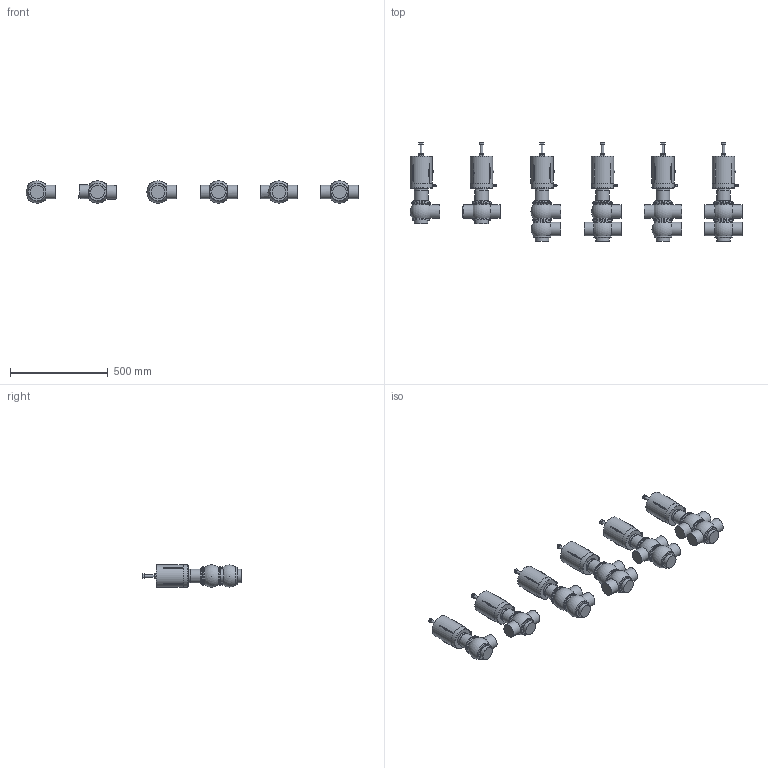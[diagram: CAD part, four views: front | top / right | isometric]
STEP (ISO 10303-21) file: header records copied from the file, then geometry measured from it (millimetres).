
FILE_DESCRIPTION((''),'2;1');
FILE_NAME('\\BV-SRV1\Ufficio tecnico\cad3d\PNEUMATICA\Ing1-1\pne bbzp e derivate\BBZS5\BBZS5-DN065-CIL108-SAL.iam.step','2009-10-19T10:18:03',(''),(''),'Autodesk Inventor 2010','Autodesk Inventor 2010','');
FILE_SCHEMA(('AUTOMOTIVE_DESIGN { 1 0 10303 214 1 1 1 1 }'));
Length unit declared in the file: millimetre
Products named in the file (7): BBZS5-DN065-CIL108-SAL; Assemblaggio-DN065; COR-INF-L-SAL-DN65; COR-INF-T-SAL-DN65; COR-SUP-L-SAL-DN65; COR-SUP-T-SAL-DN65; cil 108 tarabile
Assembly tree (22 placements, depth 2):
  BBZS5-DN065-CIL108-SAL
    Assemblaggio-DN065  x6
    COR-INF-L-SAL-DN65  x3
    COR-INF-T-SAL-DN65  x3
    COR-SUP-L-SAL-DN65  x2
    COR-SUP-T-SAL-DN65  x2
    cil 108 tarabile  x6
Bounding box: 1702.03 x 507.2 x 114.23 mm (x, y, z)
Volume: 22603512 mm3; surface area: 1354778.4 mm2
Topology: 28 solids, 28 shells, 1271 faces, 3092 edges, 1848 vertices
Faces by surface type: plane 473, cylinder 283, cone 260, bspline 120, sphere 87, torus 48
Full cylindrical faces by diameter (mm): 4.9 x6, 6 x12, 7 x6, 8.3 x6, 10 x6, 11 x6, 11.5 x6, 14 x6, 19.37 x6, 69 x6, 70 x21, 71 x6, 90 x26, 98 x20, 113.5 x6, 114.5 x6
Entity records: 7438 total; most frequent: CARTESIAN_POINT 2043, DIRECTION 1064, ORIENTED_EDGE 938, EDGE_CURVE 469, AXIS2_PLACEMENT_3D 454, EDGE_LOOP 335, VERTEX_POINT 318, FACE_OUTER_BOUND 242
